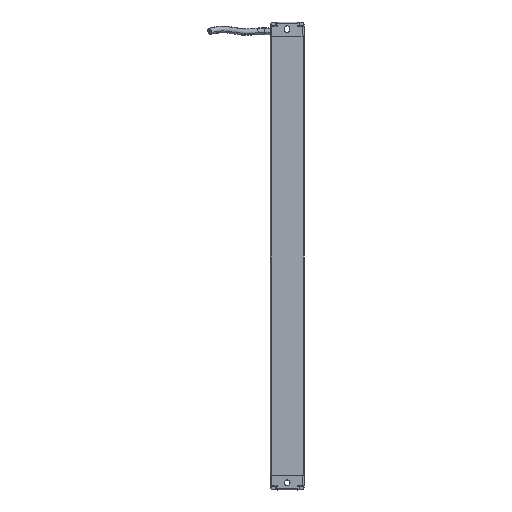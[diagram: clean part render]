
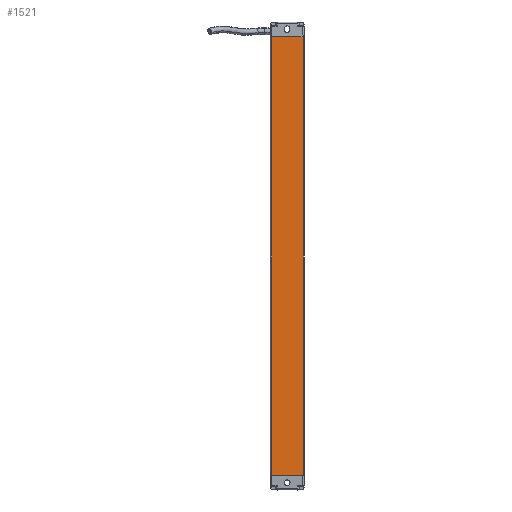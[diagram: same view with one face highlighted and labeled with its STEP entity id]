
A CAD part, front view. The second image highlights one B-rep face of the part: STEP entity #1521.
In plain terms, the highlighted planar face has unit normal (-0.001, -1, 0).
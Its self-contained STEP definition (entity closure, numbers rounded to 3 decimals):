
#1521=ADVANCED_FACE('',(#2618),#2081,.T.);
#2081=PLANE('',#15354);
#2618=FACE_OUTER_BOUND('',#3386,.T.);
#3386=EDGE_LOOP('',(#6494,#6495,#6496,#6497));
#6494=ORIENTED_EDGE('',*,*,#11222,.T.);
#6495=ORIENTED_EDGE('',*,*,#11223,.T.);
#6496=ORIENTED_EDGE('',*,*,#11224,.T.);
#6497=ORIENTED_EDGE('',*,*,#11123,.F.);
#9318=VERTEX_POINT('',#23141);
#9319=VERTEX_POINT('',#23143);
#9409=VERTEX_POINT('',#23339);
#9410=VERTEX_POINT('',#23343);
#11123=EDGE_CURVE('',#9318,#9319,#12827,.T.);
#11222=EDGE_CURVE('',#9318,#9409,#12884,.T.);
#11223=EDGE_CURVE('',#9409,#9410,#12885,.T.);
#11224=EDGE_CURVE('',#9410,#9319,#12886,.T.);
#12827=LINE('',#23142,#14040);
#12884=LINE('',#23340,#14097);
#12885=LINE('',#23342,#14098);
#12886=LINE('',#23344,#14099);
#14040=VECTOR('',#17860,1.);
#14097=VECTOR('',#18017,1.);
#14098=VECTOR('',#18020,1.);
#14099=VECTOR('',#18021,1.);
#15354=AXIS2_PLACEMENT_3D('',#23345,#18022,#18023);
#17860=DIRECTION('',(1.,-0.001,0.));
#18017=DIRECTION('',(0.,0.,-1.));
#18020=DIRECTION('',(1.,-0.001,0.));
#18021=DIRECTION('',(0.,0.,1.));
#18022=DIRECTION('',(-0.001,-1.,0.));
#18023=DIRECTION('',(1.,-0.001,0.));
#23141=CARTESIAN_POINT('',(53.048,-142.376,560.376));
#23142=CARTESIAN_POINT('',(53.048,-142.376,560.376));
#23143=CARTESIAN_POINT('',(79.028,-142.395,560.376));
#23339=CARTESIAN_POINT('',(53.048,-142.376,198.376));
#23340=CARTESIAN_POINT('',(53.048,-142.376,543.376));
#23342=CARTESIAN_POINT('',(53.048,-142.376,198.376));
#23343=CARTESIAN_POINT('',(79.028,-142.395,198.376));
#23344=CARTESIAN_POINT('',(79.028,-142.395,198.376));
#23345=CARTESIAN_POINT('',(79.028,-142.395,543.376));
